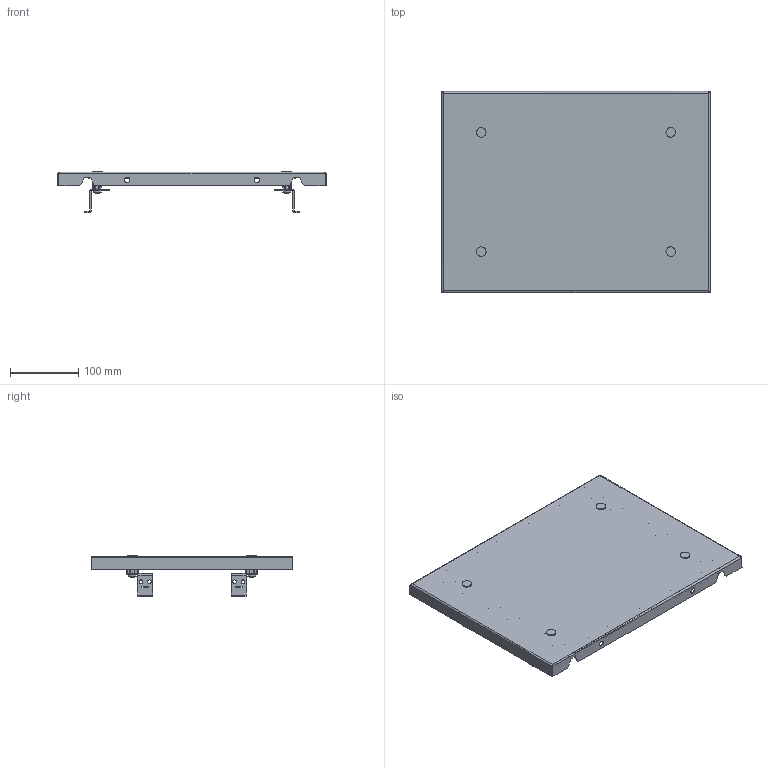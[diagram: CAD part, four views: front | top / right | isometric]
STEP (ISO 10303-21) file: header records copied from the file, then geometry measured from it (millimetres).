
FILE_DESCRIPTION(('CAx-IF Rec.Pracs.---Model Styling and Organization---1.2---2011-12-15','CAx-IF Rec.Pracs.---Geometric and Assembly Validation Properties---4.1---2014-06-16','CAx-IF Rec.Pracs.---PMI Polyline Presentation---2.0---2013-05-24'),'2;1');
FILE_NAME('R5CPFEM4300.stp','2021-05-06T03:36:40+03:00',(''),(''),'STEP Interface 4.4 by CT CoreTechnologie','3D_Evolution4.4 by CT CoreTechnologie','');
FILE_SCHEMA(('AUTOMOTIVE_DESIGN { 1 0 10303 214 1 1 1 1 }'));
Length unit declared in the file: millimetre
Products named in the file (11): R5CPFEM4300; RB.0555.00.00.0 ÑÁ_-16; PF 7x14 R5CPFEM_0300x0400; RB.0555.00.01.0_-16; AC00C061_AC00C061; Ì6õ12-A5100231_straight; AC00C172_AC00C172; RB.0544.00.00.1_-01; A1100001; M6x16-DIN 7985 ISR_thread; RB.0544.00.00.1_-00
Assembly tree (21 placements, depth 3):
  R5CPFEM4300
    RB.0555.00.00.0 ÑÁ_-16
      PF 7x14 R5CPFEM_0300x0400
      RB.0555.00.01.0_-16
      AC00C061_AC00C061
      Ì6õ12-A5100231_straight
    AC00C172_AC00C172  x4
    RB.0544.00.00.1_-01  x2
    A1100001  x4
    M6x16-DIN 7985 ISR_thread  x4
    RB.0544.00.00.1_-00  x2
Bounding box: 394 x 295 x 61 mm (x, y, z)
Surface area: 349119.5 mm2 (no closed solid volume)
Topology: 0 solids, 30 shells, 422 faces, 1077 edges, 715 vertices
Faces by surface type: plane 282, cylinder 104, bspline 36
Entity records: 8206 total; most frequent: CARTESIAN_POINT 1933, ORIENTED_EDGE 1166, DIRECTION 1156, EDGE_CURVE 583, VECTOR 420, LINE 420, VERTEX_POINT 385, AXIS2_PLACEMENT_3D 368
